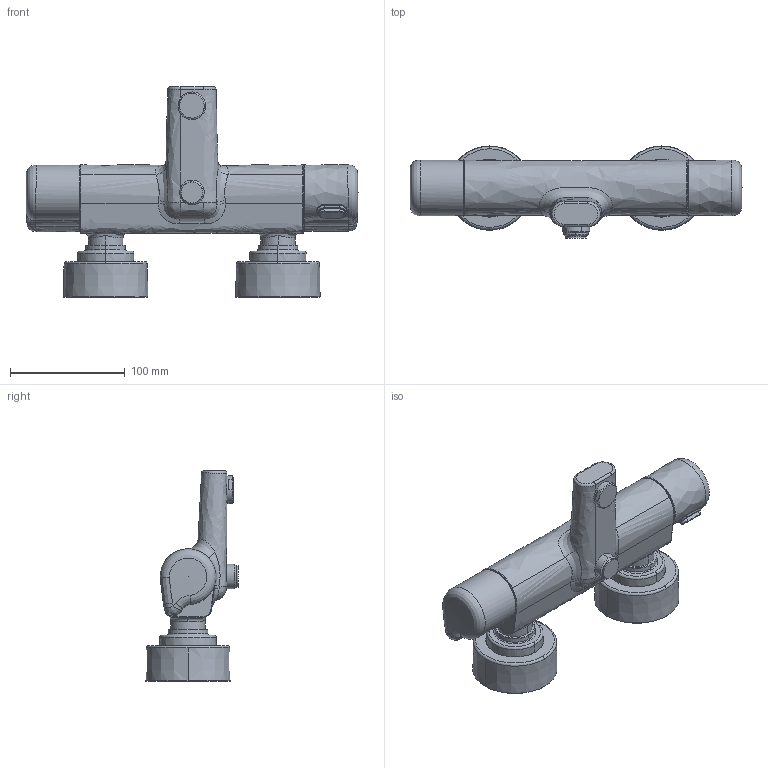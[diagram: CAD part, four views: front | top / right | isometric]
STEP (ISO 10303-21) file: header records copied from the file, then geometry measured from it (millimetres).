
FILE_DESCRIPTION (( 'STEP AP203' ), '1' );
FILE_NAME ('5762G(2020).STEP', '2019-12-02T06:48:49', ( '' ), ( '' ), 'SwSTEP 2.0', 'SolidWorks 2016', '' );
FILE_SCHEMA (( 'CONFIG_CONTROL_DESIGN' ));
Length unit declared in the file: millimetre
Products named in the file (1): 5762G(2020)
Bounding box: 289.11 x 80.37 x 183.23 mm (x, y, z)
Volume: 949266.2 mm3; surface area: 123077.1 mm2
Topology: 1 solids, 1 shells, 290 faces, 728 edges, 453 vertices
Faces by surface type: bspline 99, cylinder 59, plane 52, torus 42, cone 36, sphere 2
Entity records: 24552 total; most frequent: CARTESIAN_POINT 18283, ORIENTED_EDGE 1444, DIRECTION 1097, EDGE_CURVE 722, AXIS2_PLACEMENT_3D 479, VERTEX_POINT 449, EDGE_LOOP 313, B_SPLINE_CURVE_WITH_KNOTS 292
